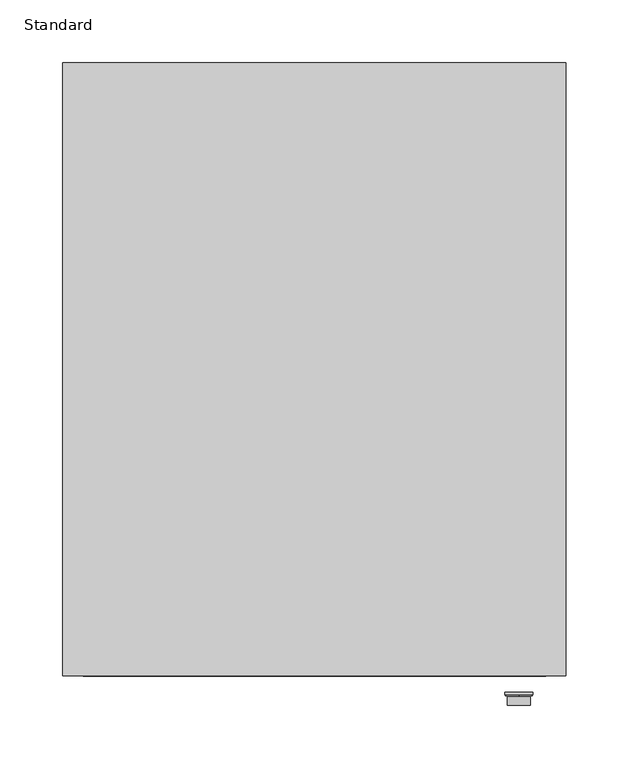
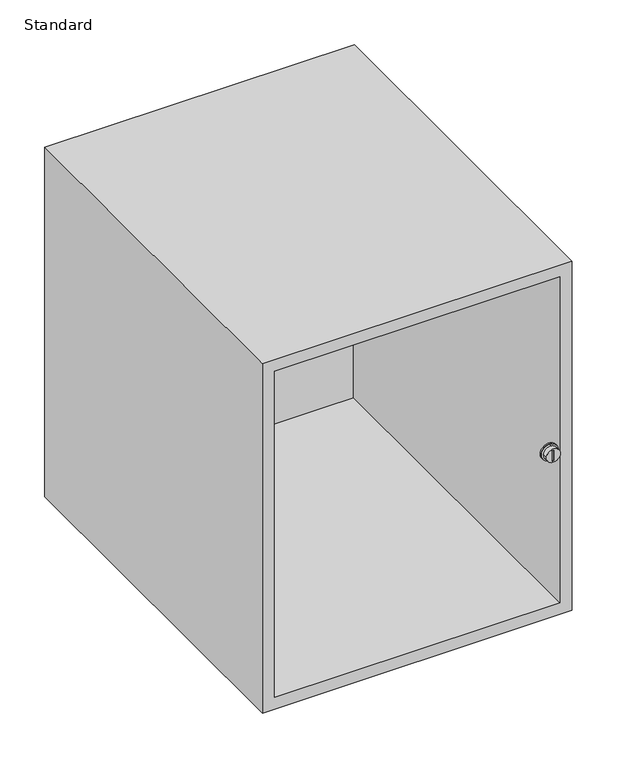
"""IFC4 building model written with IfcOpenShell, lengths in millimetres: furniture geometry, X_Locker-Duracube-Bay : Standard."""

import ifcopenshell
import ifcopenshell.guid

model = None  # the IFC model being written
_history = None  # IfcOwnerHistory: only IFC2X3 demands one
_inside = {}  # id of a spatial element -> (the spatial element, [elements in it])
_under = {}  # id of a project, library or spatial element -> (it, [spatial elements below it])
_declared = {}  # id of a project -> (the project, [libraries it declares])
_typed = {}  # id of a type object -> (the type object, [elements of that type])
_made_of = {}  # id of a material, layer set ... -> (it, [elements and type objects made of it])


def new_model(schema):
    """Start an empty IFC model of exactly this schema.

    Asked for "IFC4X3", IfcOpenShell would pick the latest addendum, in which some entities
    have other attributes; the version numbers below select the first issue.
    IFC2X3 requires an IfcOwnerHistory on every rooted entity: one is made here for all.
    """
    global model, _history
    if schema == "IFC4X3":
        model = ifcopenshell.file(schema_version=(4, 3, 0, 0))
    else:
        model = ifcopenshell.file(schema=schema)
    _inside.clear()
    _under.clear()
    _declared.clear()
    _typed.clear()
    _made_of.clear()
    _history = None
    if model.schema == "IFC2X3":
        org = make("IfcOrganization", Name="unknown")
        user = make(
            "IfcPersonAndOrganization",
            ThePerson=make("IfcPerson", FamilyName="unknown"),
            TheOrganization=org,
        )
        app = make(
            "IfcApplication",
            ApplicationDeveloper=org,
            Version="unknown",
            ApplicationFullName="unknown",
            ApplicationIdentifier="unknown",
        )
        _history = make(
            "IfcOwnerHistory",
            OwningUser=user,
            OwningApplication=app,
            ChangeAction="ADDED",
            CreationDate=0,
        )
    return model


def make(cls, **values):
    """One entity of the class cls with the attributes given. An attribute that is None is left unset."""
    return model.create_entity(
        cls, **{name: value for name, value in values.items() if value is not None}
    )


def rooted(cls, **values):
    """An entity with a GlobalId (a new one), such as an element, a storey or a relation."""
    return make(cls, GlobalId=ifcopenshell.guid.new(), OwnerHistory=_history, **values)


def si_unit(unit_type, name, prefix=None):
    """IfcSIUnit, for example si_unit("LENGTHUNIT", "METRE", prefix="MILLI")."""
    return make("IfcSIUnit", UnitType=unit_type, Prefix=prefix, Name=name)


def assignment(units):
    """IfcUnitAssignment: the units of a project."""
    return None if units is None else make("IfcUnitAssignment", Units=units)


def point(xyz):
    """IfcCartesianPoint."""
    return None if xyz is None else make("IfcCartesianPoint", Coordinates=xyz)


def direction(xyz):
    """IfcDirection."""
    return None if xyz is None else make("IfcDirection", DirectionRatios=xyz)


def frame(location, z_axis=None, x_axis=None):
    """IfcAxis2Placement3D, a coordinate frame: its origin and axes. An axis left out is left unset."""
    return make(
        "IfcAxis2Placement3D",
        Location=point(location),
        Axis=direction(z_axis),
        RefDirection=direction(x_axis),
    )


def frame_2d(location, x_axis=None):
    """IfcAxis2Placement2D, a coordinate frame in the plane: its origin and x axis."""
    return make(
        "IfcAxis2Placement2D", Location=point(location), RefDirection=direction(x_axis)
    )


def origin():
    """The frame at (0, 0, 0) with its axes left unset."""
    return frame((0.0, 0.0, 0.0))


def place(relative_to, where):
    """IfcLocalPlacement: puts the frame where relative to a parent placement (None: the world)."""
    return make(
        "IfcLocalPlacement", PlacementRelTo=relative_to, RelativePlacement=where
    )


def context(
    kind, dimensions, precision=None, world=None, true_north=None, identifier=None
):
    """IfcGeometricRepresentationContext, for example the 3D "Model" context."""
    return make(
        "IfcGeometricRepresentationContext",
        ContextIdentifier=identifier,
        ContextType=kind,
        CoordinateSpaceDimension=dimensions,
        Precision=precision,
        WorldCoordinateSystem=world,
        TrueNorth=true_north,
    )


def project(units=None, contexts=None):
    """IfcProject with its units and contexts."""
    return rooted(
        "IfcProject",
        Name="project",
        RepresentationContexts=contexts,
        UnitsInContext=assignment(units),
    )


def spatial(cls, under=None, at=None, **own):
    """A site, building, storey or space (cls), placed at a placement, below another one or the project."""
    s = rooted(cls, ObjectPlacement=at, **own)
    if under is not None:
        _under.setdefault(under.id(), (under, []))[1].append(s)
    return s


def polyline(points):
    """IfcPolyline through the points."""
    return make("IfcPolyline", Points=[point(p) for p in points])


def circle_curve(where, radius):
    """IfcCircle in the frame where."""
    return make("IfcCircle", Position=where, Radius=radius)


def ellipse_curve(where, semi_axis1, semi_axis2):
    """IfcEllipse in the frame where."""
    return make(
        "IfcEllipse", Position=where, SemiAxis1=semi_axis1, SemiAxis2=semi_axis2
    )


def trimmed(basis, trim1, trim2, sense, master):
    """IfcTrimmedCurve: the piece of a basis curve between two trims."""
    return make(
        "IfcTrimmedCurve",
        BasisCurve=basis,
        Trim1=trim1,
        Trim2=trim2,
        SenseAgreement=sense,
        MasterRepresentation=master,
    )


def segment(curve, same_sense, transition):
    """IfcCompositeCurveSegment."""
    return make(
        "IfcCompositeCurveSegment",
        Transition=transition,
        SameSense=same_sense,
        ParentCurve=curve,
    )


def composite_curve(segments, self_intersect=None):
    """IfcCompositeCurve: segments joined end to end."""
    return make("IfcCompositeCurve", Segments=segments, SelfIntersect=self_intersect)


def outline(outer, holes=None, kind="AREA"):
    """IfcArbitraryClosedProfileDef: a profile drawn as a closed curve; with holes, ...WithVoids."""
    if holes is None:
        return make("IfcArbitraryClosedProfileDef", ProfileType=kind, OuterCurve=outer)
    return make(
        "IfcArbitraryProfileDefWithVoids",
        ProfileType=kind,
        OuterCurve=outer,
        InnerCurves=holes,
    )


def extrude(swept, where, along, depth):
    """IfcExtrudedAreaSolid: the profile swept, set in the frame where, extruded along a direction by depth."""
    return make(
        "IfcExtrudedAreaSolid",
        SweptArea=swept,
        Position=where,
        ExtrudedDirection=direction(along),
        Depth=depth,
    )


def faces_of(points, faces, orient=None, outer=None):
    """IfcFace entities. A face is a list of loops; a loop is a list of indices into points, from 0.

    orient and outer hold one flag for each loop. By default every Orientation is true, the
    first loop of a face is its IfcFaceOuterBound and the others are IfcFaceBound.
    """
    made = []
    for i, loops in enumerate(faces):
        bounds = []
        for j, loop in enumerate(loops):
            is_outer = j == 0 if outer is None else outer[i][j]
            bounds.append(
                make(
                    "IfcFaceOuterBound" if is_outer else "IfcFaceBound",
                    Bound=make("IfcPolyLoop", Polygon=[points[k] for k in loop]),
                    Orientation=True if orient is None else orient[i][j],
                )
            )
        made.append(make("IfcFace", Bounds=bounds))
    return made


def faceted_brep(points, faces, orient=None, outer=None, voids=None):
    """IfcFacetedBrep: a solid bounded by flat faces; with voids (closed shells), ...WithVoids."""
    shared = [point(p) for p in points]
    hull = make("IfcClosedShell", CfsFaces=faces_of(shared, faces, orient, outer))
    if voids is None:
        return make("IfcFacetedBrep", Outer=hull)
    return make(
        "IfcFacetedBrepWithVoids",
        Outer=hull,
        Voids=[
            make(cls, CfsFaces=faces_of(shared, fs, o, b)) for cls, fs, o, b in voids
        ],
    )


def shape(context_of_items, identifier, shape_type, items):
    """IfcShapeRepresentation: the items that make up one representation, for example the "Body"."""
    return make(
        "IfcShapeRepresentation",
        ContextOfItems=context_of_items,
        RepresentationIdentifier=identifier,
        RepresentationType=shape_type,
        Items=items,
    )


def source(mapping_origin, context_of_items, identifier, shape_type, items):
    """IfcRepresentationMap: a shape defined once, which mapped items show again and again."""
    return make(
        "IfcRepresentationMap",
        MappingOrigin=mapping_origin,
        MappedRepresentation=shape(context_of_items, identifier, shape_type, items),
    )


def transform(
    local_origin,
    x_axis=None,
    y_axis=None,
    z_axis=None,
    scale=None,
    scale2=None,
    scale3=None,
    uniform=True,
):
    """IfcCartesianTransformationOperator3D, or its non-uniform kind. x_axis, y_axis, z_axis: its Axis1, 2, 3."""
    if uniform:
        return make(
            "IfcCartesianTransformationOperator3D",
            Axis1=direction(x_axis),
            Axis2=direction(y_axis),
            LocalOrigin=point(local_origin),
            Scale=scale,
            Axis3=direction(z_axis),
        )
    return make(
        "IfcCartesianTransformationOperator3DnonUniform",
        Axis1=direction(x_axis),
        Axis2=direction(y_axis),
        LocalOrigin=point(local_origin),
        Scale=scale,
        Axis3=direction(z_axis),
        Scale2=scale2,
        Scale3=scale3,
    )


def mapped(mapping_source, mapping_target):
    """IfcMappedItem: shows the shape of a source again, moved by a transform."""
    return make(
        "IfcMappedItem", MappingSource=mapping_source, MappingTarget=mapping_target
    )


def made_of(thing, what):
    """Note that an element or type object is made of a material, layer set ...; save() writes the relation."""
    if what is not None:
        _made_of.setdefault(what.id(), (what, []))[1].append(thing)
    return thing


def element(
    cls,
    number,
    at=None,
    inside=None,
    cuts=None,
    type_object=None,
    material=None,
    context=None,
    identifier="Body",
    shape_type=None,
    held_by="IfcProductDefinitionShape",
    body=None,
    shapes=None,
    **own,
):
    """One element of the class cls, such as IfcWall. Its Tag is "e" and its number.

    at: its placement. inside: the storey or other place that contains it. cuts: it is an
    opening in that element (IfcRelVoidsElement). A single representation is given by context,
    identifier, shape_type and body (its items); several are given by shapes. held_by: the class
    of the entity that holds the representations. save() writes the other relations.
    """
    e = rooted(cls, Tag="e%d" % number, ObjectPlacement=at, **own)
    if body is not None:
        shapes = [shape(context, identifier, shape_type, body)]
    if shapes is not None:
        e.Representation = make(held_by, Representations=shapes)
    if inside is not None:
        _inside.setdefault(inside.id(), (inside, []))[1].append(e)
    if cuts is not None:
        rooted(
            "IfcRelVoidsElement", RelatingBuildingElement=cuts, RelatedOpeningElement=e
        )
    if type_object is not None:
        _typed.setdefault(type_object.id(), (type_object, []))[1].append(e)
    return made_of(e, material)


def aggregate(whole, parts):
    """IfcRelAggregates: a whole, such as a stair, and the parts it consists of."""
    return rooted("IfcRelAggregates", RelatingObject=whole, RelatedObjects=parts)


def save(model, path):
    """Write the relations noted so far, then the file.

    IfcRelAggregates (storeys below a building ...), IfcRelContainedInSpatialStructure (elements
    in a storey), IfcRelDefinesByType, IfcRelAssociatesMaterial and IfcRelDeclares: one each for
    every whole, place, type object, material and project.
    """
    for whole, parts in _under.values():
        aggregate(whole, parts)
    for where, things in _inside.values():
        rooted(
            "IfcRelContainedInSpatialStructure",
            RelatedElements=things,
            RelatingStructure=where,
        )
    for kind, things in _typed.values():
        rooted("IfcRelDefinesByType", RelatedObjects=things, RelatingType=kind)
    for what, things in _made_of.values():
        rooted("IfcRelAssociatesMaterial", RelatedObjects=things, RelatingMaterial=what)
    for by, libraries in _declared.values():
        rooted("IfcRelDeclares", RelatingContext=by, RelatedDefinitions=libraries)
    model.write(path)


def plane_surface(at):
    """IfcPlane: the flat surface through the origin of the frame at, square to its z axis."""
    return make("IfcPlane", Position=at)


def revolved_surface(curve, axis_point, axis_direction):
    """IfcSurfaceOfRevolution: the curve turned about the line through axis_point along axis_direction."""
    return make(
        "IfcSurfaceOfRevolution",
        SweptCurve=make("IfcArbitraryOpenProfileDef", ProfileType="CURVE", Curve=curve),
        AxisPosition=make("IfcAxis1Placement", Location=point(axis_point), Axis=direction(axis_direction)),
    )


def advanced_brep(points, edges, surfaces, faces):
    """IfcAdvancedBrep: a solid bounded by faces that lie on surfaces and meet in shared edges.

    An edge is (start, end): straight between two places in points (the first is 0);
    or (start, end, curve); or (start, end, curve, False) where it runs against its curve.
    A face is (place in surfaces, loops), or (place, loops, False) where it looks against
    its surface's normal. A loop lists edges by number (the first is 1), with a minus sign
    where the edge is run from its end to its start. The first loop is the outer one.
    """
    corners = [point(p) for p in points]
    vertices = [make("IfcVertexPoint", VertexGeometry=c) for c in corners]
    made = []
    for start, end, *more in edges:
        made.append(
            make(
                "IfcEdgeCurve",
                EdgeStart=vertices[start],
                EdgeEnd=vertices[end],
                EdgeGeometry=more[0] if more else make("IfcPolyline", Points=[corners[start], corners[end]]),
                SameSense=more[1] if len(more) > 1 else True,
            )
        )
    hull = []
    for where, loops, *sense in faces:
        bounds = []
        for j, loop in enumerate(loops):
            ring = [make("IfcOrientedEdge", EdgeElement=made[abs(k) - 1], Orientation=k > 0) for k in loop]
            bounds.append(
                make(
                    "IfcFaceOuterBound" if j == 0 else "IfcFaceBound",
                    Bound=make("IfcEdgeLoop", EdgeList=ring),
                    Orientation=True,
                )
            )
        hull.append(make("IfcAdvancedFace", Bounds=bounds, FaceSurface=surfaces[where], SameSense=sense[0] if sense else True))
    return make("IfcAdvancedBrep", Outer=make("IfcClosedShell", CfsFaces=hull))


def standard_b3b08be9(model_context):
    return source(origin(), model_context, "Body", "SolidModel", [
        extrude(outline(composite_curve([segment(trimmed(circle_curve(frame_2d((238.3333333, 207.2003264)), 11.0), [point((238.3333333, 196.2003264))], [point((238.3333333, 218.2003264))], False, "CARTESIAN"), True, "CONTINUOUS"), segment(trimmed(circle_curve(frame_2d((238.3333333, 207.2003264)), 11.0), [point((238.3333333, 218.2003264))], [point((238.3333333, 196.2003264))], False, "CARTESIAN"), True, "CONTINUOUS")], self_intersect=False)), frame((0.0, -502.0, 0.0), z_axis=(0.0, 1.0, 0.0), x_axis=(0.0, 0.0, 1.0)), (0.0, 0.0, 1.0), 2.0),
        advanced_brep(
        [(207.2003264, -503.0, 229.3333333), (207.2003264, -503.0, 247.3333333), (207.2003264, -502.0, 249.3333333), (207.2003264, -502.0, 227.3333333), (207.2003264, -502.0, 229.3333333), (207.2003264, -502.0, 247.3333333)],
        [
            (0, 1, circle_curve(frame((207.2003264, -503.0, 238.3333333), z_axis=(0.0, 1.0, 0.0), x_axis=(0.0, 0.0, 1.0)), 9.0)),
            (1, 2, ellipse_curve(frame((207.2003264, -502.0, 247.3333333), z_axis=(-1.0, 0.0, 0.0), x_axis=(0.0, 0.0, 1.0)), 2.0, 1.0)),
            (2, 3, circle_curve(frame((207.2003264, -502.0, 238.3333333), z_axis=(0.0, -1.0, 0.0), x_axis=(0.0, 0.0, 1.0)), 11.0)),
            (3, 0, ellipse_curve(frame((207.2003264, -502.0, 229.3333333), z_axis=(-1.0, 0.0, 0.0), x_axis=(0.0, 0.0, -1.0)), 2.0, 1.0)),
            (1, 0, circle_curve(frame((207.2003264, -503.0, 238.3333333), z_axis=(0.0, 1.0, 0.0), x_axis=(0.0, 0.0, 1.0)), 9.0)),
            (3, 2, circle_curve(frame((207.2003264, -502.0, 238.3333333), z_axis=(0.0, -1.0, 0.0), x_axis=(0.0, 0.0, 1.0)), 11.0)),
            (4, 5, circle_curve(frame((207.2003264, -502.0, 238.3333333), z_axis=(0.0, 1.0, 0.0), x_axis=(0.0, 0.0, 1.0)), 9.0)),
            (5, 1),
            (0, 4),
            (5, 4, circle_curve(frame((207.2003264, -502.0, 238.3333333), z_axis=(0.0, 1.0, 0.0), x_axis=(0.0, 0.0, 1.0)), 9.0)),
            (2, 5),
            (4, 3),
        ],
        [
            revolved_surface(trimmed(ellipse_curve(frame((207.2003264, -502.0, 247.3333333), z_axis=(1.0, 0.0, 0.0), x_axis=(0.0, 0.0, 1.0)), 2.0, 1.0), [point((207.2003264, -502.0, 249.3333333))], [point((207.2003264, -503.0, 247.3333333))], True, "CARTESIAN"), (207.2003264, -502.0, 238.3333333), (0.0, -1.0, 0.0)),
            revolved_surface(polyline([(207.2003264, -503.0, 247.3333333), (207.2003264, -502.0, 247.3333333)]), (207.2003264, -502.0, 238.3333333), (0.0, -1.0, 0.0)),
            plane_surface(frame((207.2003264, -502.0, 238.3333333), z_axis=(0.0, 1.0, 0.0), x_axis=(0.0, 0.0, 1.0))),
        ],
        [
            (0, [[1, 2, 3, 4]]),
            (0, [[5, -4, 6, -2]]),
            (1, [[7, 8, -1, 9]]),
            (1, [[10, -9, -5, -8]]),
            (2, [[-3, 11, -7, 12]]),
            (2, [[-6, -12, -10, -11]]),
        ],
    ),
        extrude(outline(polyline([(208.2003264, -509.0), (206.2003264, -509.0), (206.2003264, -507.0), (208.2003264, -507.0), (208.2003264, -509.0)])), frame((0.0, 0.0, 231.3333333), z_axis=(0.0, 0.0, 1.0), x_axis=(1.0, 0.0, 0.0)), (0.0, 0.0, 1.0), 14.0),
        extrude(outline(composite_curve([segment(trimmed(circle_curve(frame_2d((238.3333333, 207.2003264)), 9.0), [point((238.3333333, 198.2003264))], [point((238.3333333, 216.2003264))], False, "CARTESIAN"), True, "CONTINUOUS"), segment(trimmed(circle_curve(frame_2d((238.3333333, 207.2003264)), 9.0), [point((238.3333333, 216.2003264))], [point((238.3333333, 198.2003264))], False, "CARTESIAN"), True, "CONTINUOUS")], self_intersect=False), holes=[polyline([(245.3333333, 208.2003264), (231.3333333, 208.2003264), (231.3333333, 206.2003264), (245.3333333, 206.2003264), (245.3333333, 208.2003264)])]), frame((0.0, -510.0, 0.0), z_axis=(0.0, 1.0, 0.0), x_axis=(0.0, 0.0, 1.0)), (0.0, 0.0, 1.0), 8.0),
        faceted_brep([(244.7003264, -487.0, 476.6666667), (-155.2996736, -487.0, 476.6666667), (-155.2996736, -487.0, 0.0), (244.7003264, -487.0, 0.0), (228.7003264, -487.0, 460.6666667), (228.7003264, -487.0, 16.0), (-139.2996736, -487.0, 16.0), (-139.2996736, -487.0, 460.6666667), (244.7003264, 0.0, 476.6666667), (244.7003264, 0.0, 0.0), (-155.2996736, 0.0, 0.0), (-155.2996736, 0.0, 476.6666667), (228.7003264, 0.0, 460.6666667), (-139.2996736, 0.0, 460.6666667), (-139.2996736, 0.0, 16.0), (228.7003264, 0.0, 16.0), (228.7003264, -26.0, 460.6666667), (228.7003264, -26.0, 16.0), (228.7003264, -10.0, 16.0), (228.7003264, -10.0, 460.6666667), (-139.2996736, -26.0, 16.0), (-139.2996736, -10.0, 16.0), (-139.2996736, -26.0, 460.6666667), (-139.2996736, -10.0, 460.6666667)], [[[0, 1, 2, 3], [4, 5, 6, 7]], [[8, 9, 10, 11], [12, 13, 14, 15]], [[1, 0, 8, 11]], [[2, 1, 11, 10]], [[3, 2, 10, 9]], [[0, 3, 9, 8]], [[5, 4, 16, 17]], [[12, 15, 18, 19]], [[6, 5, 17, 20]], [[15, 14, 21, 18]], [[7, 6, 20, 22]], [[14, 13, 23, 21]], [[4, 7, 22, 16]], [[13, 12, 19, 23]], [[17, 16, 22, 20]], [[19, 18, 21, 23]]]),
    ])


if __name__ == "__main__":
    model = new_model("IFC4")
    model_context = context("Model", 3, world=origin())
    ifc_project = project(units=[si_unit("LENGTHUNIT", "METRE", prefix="MILLI")], contexts=[model_context])
    site = spatial("IfcSite", under=ifc_project)
    building = spatial("IfcBuilding", under=site)
    placement = place(None, origin())
    standard_shape = standard_b3b08be9(model_context)
    element("IfcFurniture", 1, ObjectType="X_Locker-Duracube-Bay : Standard", at=placement, inside=building, context=model_context, shape_type="MappedRepresentation", body=[
        mapped(standard_shape, transform((0.0, 0.0, 0.0), x_axis=(1.0, 0.0, 0.0), y_axis=(0.0, 1.0, 0.0), z_axis=(0.0, 0.0, 1.0))),
    ])
    save(model, "model.ifc")
